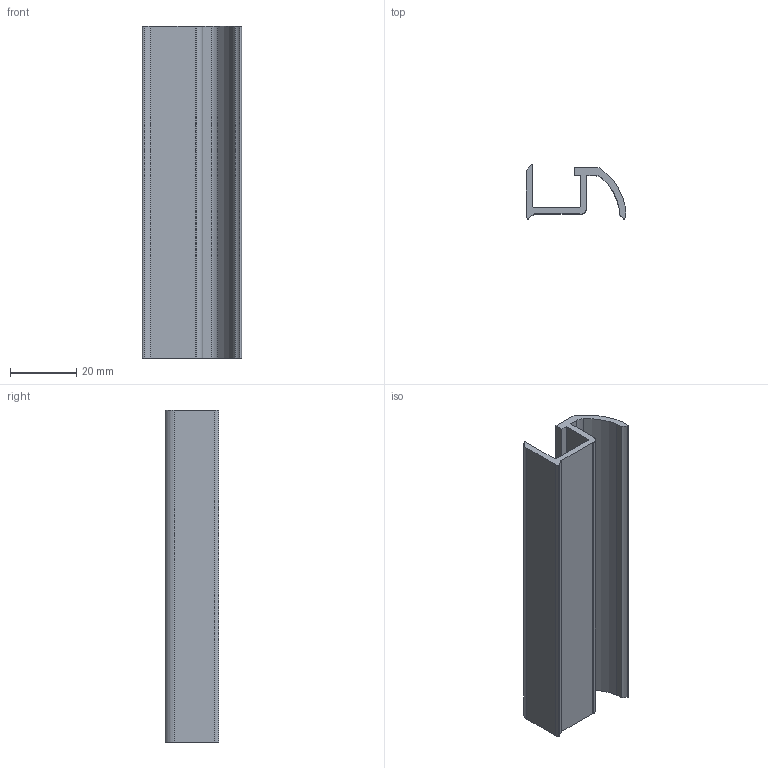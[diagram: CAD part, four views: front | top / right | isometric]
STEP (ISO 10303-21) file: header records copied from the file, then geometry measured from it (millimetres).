
FILE_DESCRIPTION (( 'STEP AP203' ), '1' );
FILE_NAME ('013.030.014.STEP', '2020-09-18T14:23:57', ( '' ), ( '' ), 'SwSTEP 2.0', 'SolidWorks 2018', '' );
FILE_SCHEMA (( 'CONFIG_CONTROL_DESIGN' ));
Length unit declared in the file: millimetre
Products named in the file (1): 013.030.014
Bounding box: 30 x 16.19 x 100 mm (x, y, z)
Volume: 12688.5 mm3; surface area: 13534.8 mm2
Topology: 1 solids, 1 shells, 33 faces, 93 edges, 62 vertices
Faces by surface type: plane 17, cylinder 15, bspline 1
Entity records: 1160 total; most frequent: CARTESIAN_POINT 202, DIRECTION 187, ORIENTED_EDGE 186, EDGE_CURVE 93, AXIS2_PLACEMENT_3D 63, VERTEX_POINT 62, VECTOR 61, LINE 61
